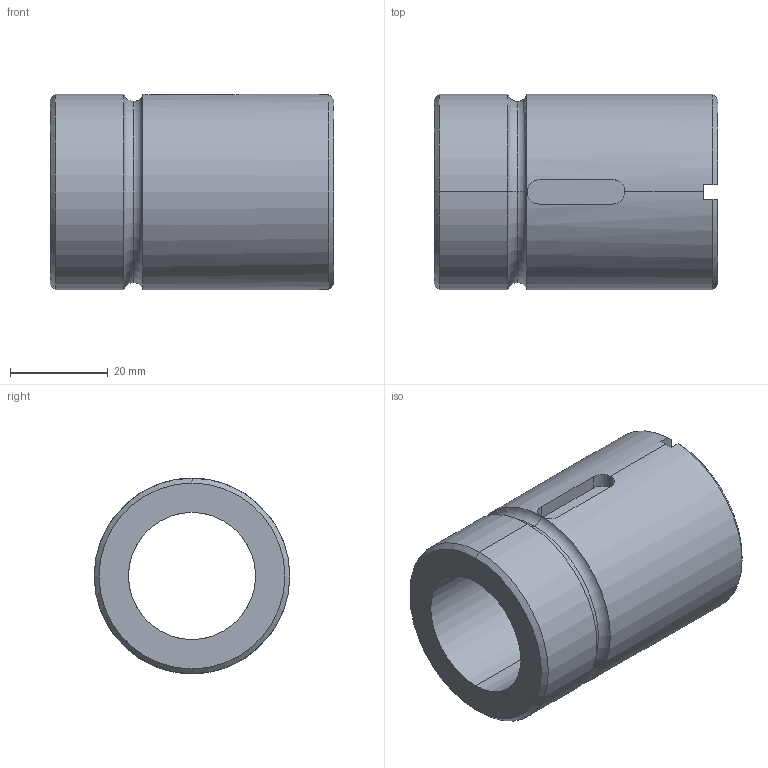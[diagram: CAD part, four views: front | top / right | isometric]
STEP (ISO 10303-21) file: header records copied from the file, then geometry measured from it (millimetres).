
FILE_DESCRIPTION (( 'STEP AP214' ), '1' );
FILE_NAME ('KGM-D 2550.STEP', '2021-01-19T01:37:07', ( 'user' ), ( 'datathink' ), 'SwSTEP 2.0', 'SolidWorks 2013', '' );
FILE_SCHEMA (( 'AUTOMOTIVE_DESIGN' ));
Length unit declared in the file: millimetre
Products named in the file (1): KGM-D 2550
Bounding box: 58 x 40 x 40 mm (x, y, z)
Volume: 41031.3 mm3; surface area: 13674.8 mm2
Topology: 1 solids, 1 shells, 31 faces, 82 edges, 51 vertices
Faces by surface type: plane 12, cylinder 11, torus 4, cone 4
Entity records: 1120 total; most frequent: CARTESIAN_POINT 305, DIRECTION 168, ORIENTED_EDGE 164, EDGE_CURVE 82, AXIS2_PLACEMENT_3D 66, VERTEX_POINT 51, LINE 36, VECTOR 36
